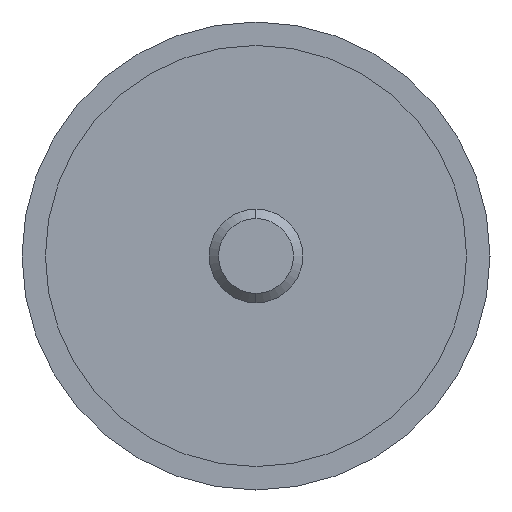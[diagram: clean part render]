
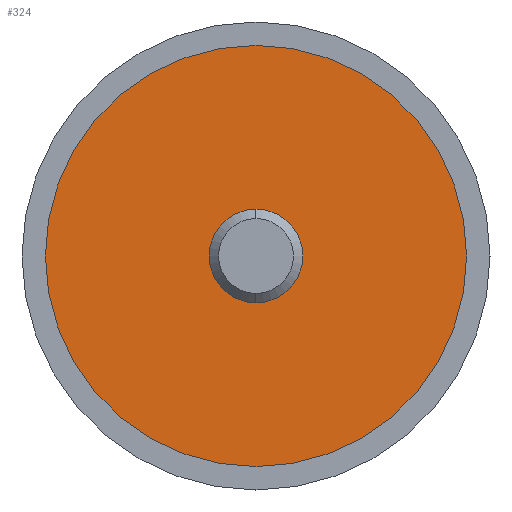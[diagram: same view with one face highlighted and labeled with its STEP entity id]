
A CAD part, left-side view. The second image highlights one B-rep face of the part: STEP entity #324.
In plain terms, the highlighted planar face has unit normal (-1, 0, 0).
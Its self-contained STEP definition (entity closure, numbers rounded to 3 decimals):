
#2 = EDGE_CURVE ( 'NONE', #273, #506, #92, .T. ) ;
#19 = EDGE_LOOP ( 'NONE', ( #401, #125 ) ) ;
#69 = AXIS2_PLACEMENT_3D ( 'NONE', #105, #633, #161 ) ;
#72 = CARTESIAN_POINT ( 'NONE',  ( -14.99, 0., -4. ) ) ;
#77 = ORIENTED_EDGE ( 'NONE', *, *, #253, .F. ) ;
#92 = CIRCLE ( 'NONE', #238, 18. ) ;
#105 = CARTESIAN_POINT ( 'NONE',  ( -14.99, 0., 0. ) ) ;
#109 = AXIS2_PLACEMENT_3D ( 'NONE', #185, #449, #453 ) ;
#118 = CIRCLE ( 'NONE', #69, 4. ) ;
#125 = ORIENTED_EDGE ( 'NONE', *, *, #2, .T. ) ;
#135 = DIRECTION ( 'NONE',  ( -1., 0., 0. ) ) ;
#161 = DIRECTION ( 'NONE',  ( 0., 0., -1. ) ) ;
#164 = DIRECTION ( 'NONE',  ( 0., 0., 1. ) ) ;
#185 = CARTESIAN_POINT ( 'NONE',  ( -14.99, 0., 0. ) ) ;
#186 = CARTESIAN_POINT ( 'NONE',  ( -14.99, 0., -18. ) ) ;
#189 = AXIS2_PLACEMENT_3D ( 'NONE', #556, #470, #294 ) ;
#190 = DIRECTION ( 'NONE',  ( 0., 0., -1. ) ) ;
#191 = CARTESIAN_POINT ( 'NONE',  ( -14.99, 0., 0. ) ) ;
#199 = CARTESIAN_POINT ( 'NONE',  ( -14.99, 0., 4. ) ) ;
#205 = VERTEX_POINT ( 'NONE', #72 ) ;
#238 = AXIS2_PLACEMENT_3D ( 'NONE', #191, #610, #164 ) ;
#239 = ORIENTED_EDGE ( 'NONE', *, *, #529, .F. ) ;
#253 = EDGE_CURVE ( 'NONE', #205, #351, #396, .T. ) ;
#273 = VERTEX_POINT ( 'NONE', #186 ) ;
#281 = PLANE ( 'NONE',  #189 ) ;
#290 = CARTESIAN_POINT ( 'NONE',  ( -14.99, 0., 0. ) ) ;
#294 = DIRECTION ( 'NONE',  ( 0., 0., -1. ) ) ;
#324 = ADVANCED_FACE ( 'NONE', ( #502, #660 ), #281, .F. ) ;
#351 = VERTEX_POINT ( 'NONE', #199 ) ;
#378 = CARTESIAN_POINT ( 'NONE',  ( -14.99, 0., 18. ) ) ;
#396 = CIRCLE ( 'NONE', #573, 4. ) ;
#401 = ORIENTED_EDGE ( 'NONE', *, *, #572, .T. ) ;
#449 = DIRECTION ( 'NONE',  ( -1., 0., 0. ) ) ;
#453 = DIRECTION ( 'NONE',  ( 0., 0., 1. ) ) ;
#470 = DIRECTION ( 'NONE',  ( 1., 0., 0. ) ) ;
#502 = FACE_OUTER_BOUND ( 'NONE', #19, .T. ) ;
#506 = VERTEX_POINT ( 'NONE', #378 ) ;
#529 = EDGE_CURVE ( 'NONE', #351, #205, #118, .T. ) ;
#556 = CARTESIAN_POINT ( 'NONE',  ( -14.99, 18., 0. ) ) ;
#572 = EDGE_CURVE ( 'NONE', #506, #273, #668, .T. ) ;
#573 = AXIS2_PLACEMENT_3D ( 'NONE', #290, #135, #190 ) ;
#610 = DIRECTION ( 'NONE',  ( -1., 0., 0. ) ) ;
#633 = DIRECTION ( 'NONE',  ( -1., 0., 0. ) ) ;
#660 = FACE_BOUND ( 'NONE', #674, .T. ) ;
#668 = CIRCLE ( 'NONE', #109, 18. ) ;
#674 = EDGE_LOOP ( 'NONE', ( #239, #77 ) ) ;
